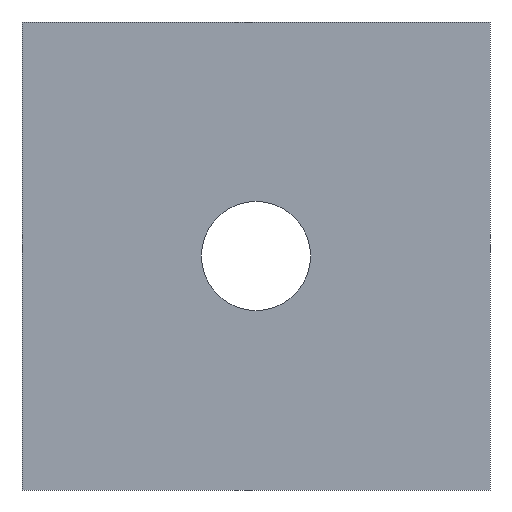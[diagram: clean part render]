
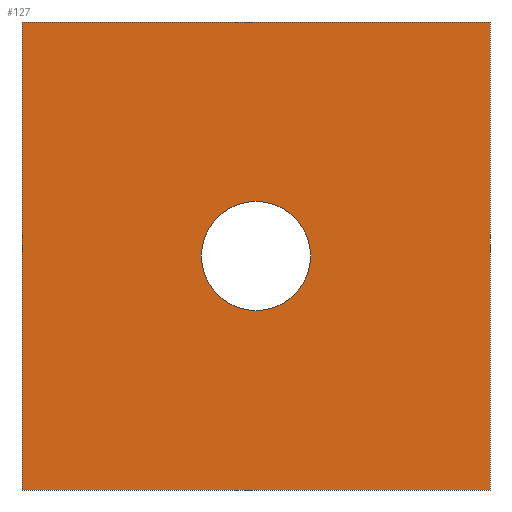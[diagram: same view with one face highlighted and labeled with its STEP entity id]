
A CAD part, front view. The second image highlights one B-rep face of the part: STEP entity #127.
In plain terms, the highlighted planar face has unit normal (0, -1, 0).
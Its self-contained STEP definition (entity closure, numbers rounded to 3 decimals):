
#21=CIRCLE('',#148,2.1);
#31=ORIENTED_EDGE('',*,*,#52,.T.);
#32=ORIENTED_EDGE('',*,*,#59,.F.);
#33=ORIENTED_EDGE('',*,*,#58,.F.);
#34=ORIENTED_EDGE('',*,*,#60,.T.);
#35=ORIENTED_EDGE('',*,*,#61,.T.);
#52=EDGE_CURVE('',#67,#65,#76,.T.);
#58=EDGE_CURVE('',#72,#69,#82,.T.);
#59=EDGE_CURVE('',#69,#65,#83,.T.);
#60=EDGE_CURVE('',#72,#67,#84,.T.);
#61=EDGE_CURVE('',#73,#73,#21,.T.);
#65=VERTEX_POINT('',#189);
#67=VERTEX_POINT('',#192);
#69=VERTEX_POINT('',#198);
#72=VERTEX_POINT('',#203);
#73=VERTEX_POINT('',#209);
#76=LINE('',#191,#88);
#82=LINE('',#204,#94);
#83=LINE('',#206,#95);
#84=LINE('',#207,#96);
#88=VECTOR('',#159,1000.);
#94=VECTOR('',#167,1000.);
#95=VECTOR('',#170,1000.);
#96=VECTOR('',#171,1000.);
#101=EDGE_LOOP('',(#31,#32,#33,#34));
#102=EDGE_LOOP('',(#35));
#111=FACE_BOUND('',#101,.T.);
#112=FACE_BOUND('',#102,.T.);
#121=PLANE('',#147);
#127=ADVANCED_FACE('',(#111,#112),#121,.F.);
#147=AXIS2_PLACEMENT_3D('',#205,#168,#169);
#148=AXIS2_PLACEMENT_3D('',#208,#172,#173);
#159=DIRECTION('',(0.,0.,1.));
#167=DIRECTION('',(0.,0.,1.));
#168=DIRECTION('',(0.,1.,0.));
#169=DIRECTION('',(0.,0.,1.));
#170=DIRECTION('',(1.,0.,0.));
#171=DIRECTION('',(1.,0.,0.));
#172=DIRECTION('',(0.,1.,0.));
#173=DIRECTION('',(0.,0.,1.));
#189=CARTESIAN_POINT('',(356.108,-372.988,325.622));
#191=CARTESIAN_POINT('',(356.108,-372.988,325.622));
#192=CARTESIAN_POINT('',(356.108,-372.988,307.622));
#198=CARTESIAN_POINT('',(338.108,-372.988,325.622));
#203=CARTESIAN_POINT('',(338.108,-372.988,307.622));
#204=CARTESIAN_POINT('',(338.108,-372.988,325.622));
#205=CARTESIAN_POINT('',(338.108,-372.988,325.622));
#206=CARTESIAN_POINT('',(338.108,-372.988,325.622));
#207=CARTESIAN_POINT('',(338.108,-372.988,307.622));
#208=CARTESIAN_POINT('',(347.108,-372.988,316.622));
#209=CARTESIAN_POINT('',(347.108,-372.988,318.722));
